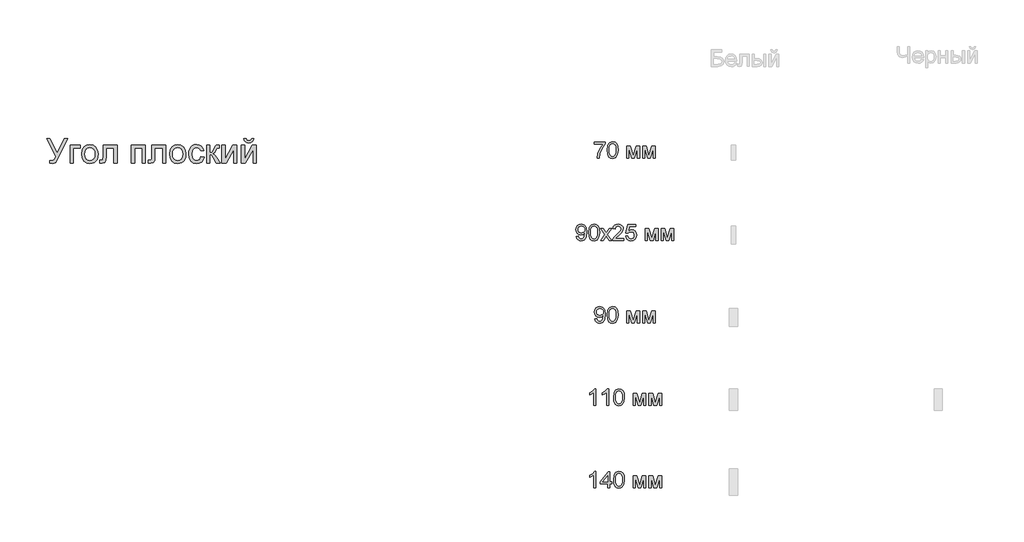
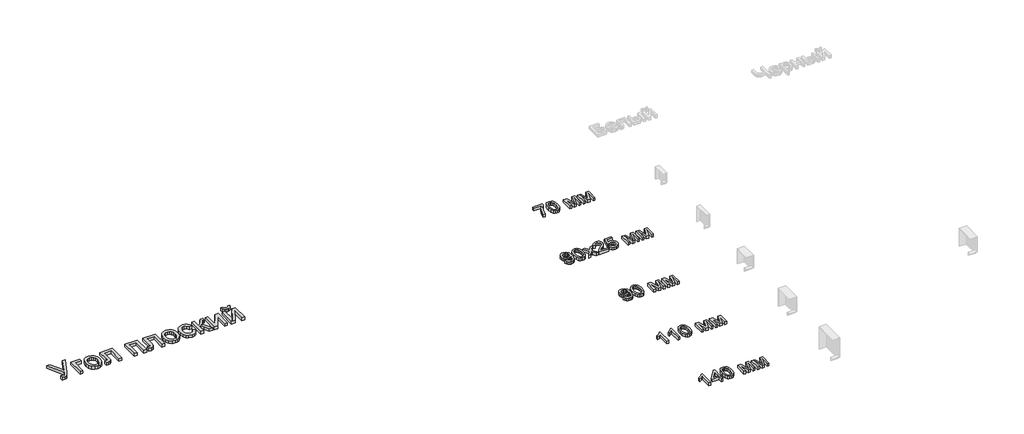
# One storey, part 12 of 48: 6 proxies.
"""IFC4 building model written with IfcOpenShell, lengths in millimetres."""

import ifcopenshell
import ifcopenshell.guid

model = None  # the IFC model being written
_history = None  # IfcOwnerHistory: only IFC2X3 demands one
_inside = {}  # id of a spatial element -> (the spatial element, [elements in it])
_under = {}  # id of a project, library or spatial element -> (it, [spatial elements below it])
_declared = {}  # id of a project -> (the project, [libraries it declares])
_typed = {}  # id of a type object -> (the type object, [elements of that type])
_made_of = {}  # id of a material, layer set ... -> (it, [elements and type objects made of it])


def new_model(schema):
    """Start an empty IFC model of exactly this schema.

    Asked for "IFC4X3", IfcOpenShell would pick the latest addendum, in which some entities
    have other attributes; the version numbers below select the first issue.
    IFC2X3 requires an IfcOwnerHistory on every rooted entity: one is made here for all.
    """
    global model, _history
    if schema == "IFC4X3":
        model = ifcopenshell.file(schema_version=(4, 3, 0, 0))
    else:
        model = ifcopenshell.file(schema=schema)
    _inside.clear()
    _under.clear()
    _declared.clear()
    _typed.clear()
    _made_of.clear()
    _history = None
    if model.schema == "IFC2X3":
        org = make("IfcOrganization", Name="unknown")
        user = make(
            "IfcPersonAndOrganization",
            ThePerson=make("IfcPerson", FamilyName="unknown"),
            TheOrganization=org,
        )
        app = make(
            "IfcApplication",
            ApplicationDeveloper=org,
            Version="unknown",
            ApplicationFullName="unknown",
            ApplicationIdentifier="unknown",
        )
        _history = make(
            "IfcOwnerHistory",
            OwningUser=user,
            OwningApplication=app,
            ChangeAction="ADDED",
            CreationDate=0,
        )
    return model


def make(cls, **values):
    """One entity of the class cls with the attributes given. An attribute that is None is left unset."""
    return model.create_entity(
        cls, **{name: value for name, value in values.items() if value is not None}
    )


def rooted(cls, **values):
    """An entity with a GlobalId (a new one), such as an element, a storey or a relation."""
    return make(cls, GlobalId=ifcopenshell.guid.new(), OwnerHistory=_history, **values)


def si_unit(unit_type, name, prefix=None):
    """IfcSIUnit, for example si_unit("LENGTHUNIT", "METRE", prefix="MILLI")."""
    return make("IfcSIUnit", UnitType=unit_type, Prefix=prefix, Name=name)


def assignment(units):
    """IfcUnitAssignment: the units of a project."""
    return None if units is None else make("IfcUnitAssignment", Units=units)


def point(xyz):
    """IfcCartesianPoint."""
    return None if xyz is None else make("IfcCartesianPoint", Coordinates=xyz)


def direction(xyz):
    """IfcDirection."""
    return None if xyz is None else make("IfcDirection", DirectionRatios=xyz)


def frame(location, z_axis=None, x_axis=None):
    """IfcAxis2Placement3D, a coordinate frame: its origin and axes. An axis left out is left unset."""
    return make(
        "IfcAxis2Placement3D",
        Location=point(location),
        Axis=direction(z_axis),
        RefDirection=direction(x_axis),
    )


def origin():
    """The frame at (0, 0, 0) with its axes left unset."""
    return frame((0.0, 0.0, 0.0))


def origin_with_axes():
    """The frame at (0, 0, 0) with the z axis (0, 0, 1) and the x axis (1, 0, 0) written out."""
    return frame((0.0, 0.0, 0.0), z_axis=(0.0, 0.0, 1.0), x_axis=(1.0, 0.0, 0.0))


def place(relative_to, where):
    """IfcLocalPlacement: puts the frame where relative to a parent placement (None: the world)."""
    return make(
        "IfcLocalPlacement", PlacementRelTo=relative_to, RelativePlacement=where
    )


def context(
    kind, dimensions, precision=None, world=None, true_north=None, identifier=None
):
    """IfcGeometricRepresentationContext, for example the 3D "Model" context."""
    return make(
        "IfcGeometricRepresentationContext",
        ContextIdentifier=identifier,
        ContextType=kind,
        CoordinateSpaceDimension=dimensions,
        Precision=precision,
        WorldCoordinateSystem=world,
        TrueNorth=true_north,
    )


def project(units=None, contexts=None):
    """IfcProject with its units and contexts."""
    return rooted(
        "IfcProject",
        Name="project",
        RepresentationContexts=contexts,
        UnitsInContext=assignment(units),
    )


def spatial(cls, under=None, at=None, **own):
    """A site, building, storey or space (cls), placed at a placement, below another one or the project."""
    s = rooted(cls, ObjectPlacement=at, **own)
    if under is not None:
        _under.setdefault(under.id(), (under, []))[1].append(s)
    return s


def polyline(points):
    """IfcPolyline through the points."""
    return make("IfcPolyline", Points=[point(p) for p in points])


def outline(outer, holes=None, kind="AREA"):
    """IfcArbitraryClosedProfileDef: a profile drawn as a closed curve; with holes, ...WithVoids."""
    if holes is None:
        return make("IfcArbitraryClosedProfileDef", ProfileType=kind, OuterCurve=outer)
    return make(
        "IfcArbitraryProfileDefWithVoids",
        ProfileType=kind,
        OuterCurve=outer,
        InnerCurves=holes,
    )


def extrude(swept, where, along, depth):
    """IfcExtrudedAreaSolid: the profile swept, set in the frame where, extruded along a direction by depth."""
    return make(
        "IfcExtrudedAreaSolid",
        SweptArea=swept,
        Position=where,
        ExtrudedDirection=direction(along),
        Depth=depth,
    )


def shape(context_of_items, identifier, shape_type, items):
    """IfcShapeRepresentation: the items that make up one representation, for example the "Body"."""
    return make(
        "IfcShapeRepresentation",
        ContextOfItems=context_of_items,
        RepresentationIdentifier=identifier,
        RepresentationType=shape_type,
        Items=items,
    )


def made_of(thing, what):
    """Note that an element or type object is made of a material, layer set ...; save() writes the relation."""
    if what is not None:
        _made_of.setdefault(what.id(), (what, []))[1].append(thing)
    return thing


def element(
    cls,
    number,
    at=None,
    inside=None,
    cuts=None,
    type_object=None,
    material=None,
    context=None,
    identifier="Body",
    shape_type=None,
    held_by="IfcProductDefinitionShape",
    body=None,
    shapes=None,
    **own,
):
    """One element of the class cls, such as IfcWall. Its Tag is "e" and its number.

    at: its placement. inside: the storey or other place that contains it. cuts: it is an
    opening in that element (IfcRelVoidsElement). A single representation is given by context,
    identifier, shape_type and body (its items); several are given by shapes. held_by: the class
    of the entity that holds the representations. save() writes the other relations.
    """
    e = rooted(cls, Tag="e%d" % number, ObjectPlacement=at, **own)
    if body is not None:
        shapes = [shape(context, identifier, shape_type, body)]
    if shapes is not None:
        e.Representation = make(held_by, Representations=shapes)
    if inside is not None:
        _inside.setdefault(inside.id(), (inside, []))[1].append(e)
    if cuts is not None:
        rooted(
            "IfcRelVoidsElement", RelatingBuildingElement=cuts, RelatedOpeningElement=e
        )
    if type_object is not None:
        _typed.setdefault(type_object.id(), (type_object, []))[1].append(e)
    return made_of(e, material)


def aggregate(whole, parts):
    """IfcRelAggregates: a whole, such as a stair, and the parts it consists of."""
    return rooted("IfcRelAggregates", RelatingObject=whole, RelatedObjects=parts)


def save(model, path):
    """Write the relations noted so far, then the file.

    IfcRelAggregates (storeys below a building ...), IfcRelContainedInSpatialStructure (elements
    in a storey), IfcRelDefinesByType, IfcRelAssociatesMaterial and IfcRelDeclares: one each for
    every whole, place, type object, material and project.
    """
    for whole, parts in _under.values():
        aggregate(whole, parts)
    for where, things in _inside.values():
        rooted(
            "IfcRelContainedInSpatialStructure",
            RelatedElements=things,
            RelatingStructure=where,
        )
    for kind, things in _typed.values():
        rooted("IfcRelDefinesByType", RelatedObjects=things, RelatingType=kind)
    for what, things in _made_of.values():
        rooted("IfcRelAssociatesMaterial", RelatedObjects=things, RelatingMaterial=what)
    for by, libraries in _declared.values():
        rooted("IfcRelDeclares", RelatingContext=by, RelatedDefinitions=libraries)
    model.write(path)


model = new_model("IFC4")

# Units and contexts
model_context = context("Model", 3, world=origin())
ifc_project = project(units=[si_unit("LENGTHUNIT", "METRE", prefix="MILLI")], contexts=[model_context])

# Site, building, storey
site = spatial("IfcSite", under=ifc_project)
building = spatial("IfcBuilding", under=site)
storey = spatial("IfcBuildingStorey", under=building, Name="Этаж 01", Elevation=0.0)

# Proxies
placement = place(None, origin())
element("IfcBuildingElementProxy", 1, Name="150 мм Arial", ObjectType="150 мм Arial", at=placement, inside=storey, context=model_context, shape_type="SweptSolid", body=[
    extrude(outline(polyline([(8881.8566897, -4202.898573), (8902.7155988, -4202.898573), (8947.7811432, -4292.146745), (8988.3217391, -4202.898573), (9008.9967072, -4202.898573), (8951.791057, -4320.2897176), (8936.2296486, -4349.131666), (8928.8444175, -4354.2360287), (8918.8288302, -4355.937483), (8901.8694702, -4353.5830382), (8901.8694702, -4337.1019248), (8916.6951146, -4337.1019248), (8927.6947863, -4332.9080701), (8937.8851175, -4313.8149945), (8881.8566897, -4202.898573)])), origin_with_axes(), (0.0, 0.0, 1.0), 20.0),
    extrude(outline(polyline([(9024.3005982, -4242.924134), (9085.5161622, -4242.924134), (9085.5161622, -4261.7596922), (9043.1361564, -4261.7596922), (9043.1361564, -4353.5830382), (9024.3005982, -4353.5830382), (9024.3005982, -4242.924134)])), origin_with_axes(), (0.0, 0.0, 1.0), 20.0),
    extrude(outline(polyline([(9094.9339413, -4298.2535861), (9099.0082344, -4271.5729444), (9111.2311137, -4252.8201597), (9126.3326696, -4243.6323069), (9144.4140696, -4240.5696893), (9164.2015224, -4244.299093), (9180.0066527, -4255.4873042), (9190.3671293, -4273.251406), (9193.8206216, -4296.7084817), (9192.2939113, -4315.7371779), (9187.7137805, -4330.2225315), (9180.2135863, -4341.0704518), (9169.926686, -4349.1868483), (9157.7084052, -4354.2498243), (9144.4140696, -4355.937483), (9124.3874935, -4352.2218748), (9108.6007574, -4341.0750503), (9098.3506453, -4322.938468), (9094.9339413, -4298.2535861)]), holes=[polyline([(9113.7694994, -4298.2167979), (9115.9492002, -4315.2635299), (9122.4883027, -4327.4082342), (9132.3291461, -4334.6785022), (9144.4140696, -4337.1019248), (9156.4438109, -4334.6647066), (9166.2662601, -4327.3530519), (9172.8053626, -4315.0473992), (9174.9850634, -4297.6281867), (9172.791567, -4281.0780955), (9166.2110778, -4269.098938), (9156.374833, -4261.8286701), (9144.4140696, -4259.4052474), (9132.3291461, -4261.819473), (9122.4883027, -4269.0621498), (9115.9492002, -4281.179263), (9113.7694994, -4298.2167979)])]), origin_with_axes(), (0.0, 0.0, 1.0), 20.0),
    extrude(outline(polyline([(9224.4284036, -4242.924134), (9309.1884153, -4242.924134), (9309.1884153, -4353.4726736), (9290.3528571, -4353.4726736), (9290.3528571, -4261.7596922), (9243.2639617, -4261.7596922), (9243.2639617, -4314.5507585), (9241.9947688, -4338.9045466), (9235.023405, -4349.1868483), (9218.5422917, -4353.5830382), (9203.2384007, -4352.626545), (9203.2384007, -4334.74748), (9211.6628983, -4334.74748), (9220.1793665, -4333.5886517), (9223.582275, -4329.9098318), (9224.4284036, -4313.4839007), (9224.4284036, -4242.924134)])), origin_with_axes(), (0.0, 0.0, 1.0), 20.0),
    extrude(outline(polyline([(9396.3028717, -4242.924134), (9481.0628834, -4242.924134), (9481.0628834, -4353.5830382), (9462.2273253, -4353.5830382), (9462.2273253, -4261.7596922), (9415.1384299, -4261.7596922), (9415.1384299, -4353.5830382), (9396.3028717, -4353.5830382), (9396.3028717, -4242.924134)])), origin_with_axes(), (0.0, 0.0, 1.0), 20.0),
    extrude(outline(polyline([(9518.7339997, -4242.924134), (9603.4940114, -4242.924134), (9603.4940114, -4353.4726736), (9584.6584533, -4353.4726736), (9584.6584533, -4261.7596922), (9537.5695579, -4261.7596922), (9537.5695579, -4314.5507585), (9536.300365, -4338.9045466), (9529.3290012, -4349.1868483), (9512.8478878, -4353.5830382), (9497.5439968, -4352.626545), (9497.5439968, -4334.74748), (9505.9684945, -4334.74748), (9514.4849627, -4333.5886517), (9517.8878711, -4329.9098318), (9518.7339997, -4313.4839007), (9518.7339997, -4242.924134)])), origin_with_axes(), (0.0, 0.0, 1.0), 20.0),
    extrude(outline(polyline([(9627.0384591, -4298.2535861), (9631.1127522, -4271.5729444), (9643.3356315, -4252.8201597), (9658.4371874, -4243.6323069), (9676.5185874, -4240.5696893), (9696.3060403, -4244.299093), (9712.1111705, -4255.4873042), (9722.4716472, -4273.251406), (9725.9251394, -4296.7084817), (9724.3984291, -4315.7371779), (9719.8182983, -4330.2225315), (9712.3181041, -4341.0704518), (9702.0312038, -4349.1868483), (9689.812923, -4354.2498243), (9676.5185874, -4355.937483), (9656.4920113, -4352.2218748), (9640.7052752, -4341.0750503), (9630.4551631, -4322.938468), (9627.0384591, -4298.2535861)]), holes=[polyline([(9645.8740173, -4298.2167979), (9648.0537181, -4315.2635299), (9654.5928205, -4327.4082342), (9664.4336639, -4334.6785022), (9676.5185874, -4337.1019248), (9688.5483287, -4334.6647066), (9698.370778, -4327.3530519), (9704.9098804, -4315.0473992), (9707.0895812, -4297.6281867), (9704.8960849, -4281.0780955), (9698.3155957, -4269.098938), (9688.4793508, -4261.8286701), (9676.5185874, -4259.4052474), (9664.4336639, -4261.819473), (9654.5928205, -4269.0621498), (9648.0537181, -4281.179263), (9645.8740173, -4298.2167979)])]), origin_with_axes(), (0.0, 0.0, 1.0), 20.0),
    extrude(outline(polyline([(9817.7484854, -4313.5574771), (9836.5840436, -4315.9119219), (9831.3325281, -4332.6643482), (9821.4640935, -4345.3240874), (9807.907642, -4353.2841341), (9791.5920755, -4355.937483), (9771.5563024, -4352.2356704), (9755.8891279, -4341.1302326), (9745.7769716, -4323.1086134), (9742.4062528, -4298.6582563), (9743.8455911, -4281.8966329), (9748.163606, -4267.3698926), (9755.4292754, -4255.6390555), (9765.7115772, -4247.2651416), (9778.0126314, -4242.2435523), (9791.3345581, -4240.5696893), (9807.250053, -4242.8689517), (9819.9741715, -4249.7667391), (9829.1022435, -4260.8951695), (9834.2295988, -4275.8863608), (9815.3940406, -4278.2408056), (9806.6568432, -4264.1325311), (9791.4817109, -4259.4052474), (9779.3094154, -4261.732101), (9769.6479145, -4268.7126619), (9763.3433368, -4280.724009), (9761.2418109, -4298.1432215), (9763.2973516, -4315.7969588), (9769.4639735, -4327.8496926), (9778.9507305, -4334.7888668), (9790.9666761, -4337.1019248), (9800.7201475, -4335.657988), (9808.7169824, -4331.3261775), (9814.5341165, -4323.9961287), (9817.7484854, -4313.5574771)])), origin_with_axes(), (0.0, 0.0, 1.0), 20.0),
    extrude(outline(polyline([(9853.0651569, -4242.924134), (9871.9007151, -4242.924134), (9871.9007151, -4290.0130294), (9884.5190675, -4286.6285151), (9894.8565516, -4266.9100401), (9903.4465962, -4249.8954978), (9911.0249653, -4244.3588738), (9924.802146, -4242.924134), (9928.4073895, -4242.924134), (9928.4073895, -4261.8700568), (9923.330618, -4261.7596922), (9914.1335681, -4263.746255), (9907.658845, -4276.1438782), (9900.0620818, -4289.5531769), (9889.4118981, -4296.1198705), (9901.2944865, -4303.4499193), (9912.9563457, -4318.891766), (9933.1162791, -4353.5830382), (9911.705547, -4353.5830382), (9891.9502838, -4319.62753), (9882.01747, -4305.2617381), (9871.9007151, -4301.7852533), (9871.9007151, -4353.5830382), (9853.0651569, -4353.5830382), (9853.0651569, -4242.924134)])), origin_with_axes(), (0.0, 0.0, 1.0), 20.0),
    extrude(outline(polyline([(9944.8885029, -4242.924134), (9963.7240611, -4242.924134), (9963.7240611, -4327.3162637), (10010.0036161, -4242.924134), (10034.3574042, -4242.924134), (10034.3574042, -4353.5830382), (10015.521846, -4353.5830382), (10015.521846, -4269.7059433), (9969.5365966, -4353.5830382), (9944.8885029, -4353.5830382), (9944.8885029, -4242.924134)])), origin_with_axes(), (0.0, 0.0, 1.0), 20.0),
    extrude(outline(polyline([(10062.6107414, -4242.924134), (10081.4462995, -4242.924134), (10081.4462995, -4327.3162637), (10127.7258545, -4242.924134), (10152.0796426, -4242.924134), (10152.0796426, -4353.5830382), (10133.2440845, -4353.5830382), (10133.2440845, -4269.7059433), (10087.2588351, -4353.5830382), (10062.6107414, -4353.5830382), (10062.6107414, -4242.924134)])), origin_with_axes(), (0.0, 0.0, 1.0), 20.0),
    extrude(outline(polyline([(10123.8263054, -4202.898573), (10137.952974, -4202.898573), (10134.913349, -4214.9605039), (10128.8111064, -4223.8494526), (10119.9221577, -4229.3262958), (10108.5224144, -4231.1519102), (10096.1523823, -4229.3400914), (10086.5598593, -4223.9046349), (10080.0023627, -4215.0294817), (10076.73741, -4202.898573), (10090.8640786, -4202.898573), (10096.1615793, -4213.5119685), (10106.8301572, -4217.0252416), (10118.5288047, -4213.6223331), (10123.8263054, -4202.898573)])), origin_with_axes(), (0.0, 0.0, 1.0), 20.0),
])
element("IfcBuildingElementProxy", 2, Name="100 мм Arial", ObjectType="100 мм Arial", at=placement, inside=storey, context=model_context, shape_type="SweptSolid", body=[
    extrude(outline(polyline([(12202.0597089, -4236.7077814), (12202.0597089, -4224.1507427), (12267.9841625, -4224.1507427), (12267.9841625, -4234.3042857), (12249.2834944, -4261.3190869), (12234.9728848, -4295.7405789), (12230.3130462, -4323.037423), (12217.7560074, -4323.037423), (12222.7469398, -4294.7105093), (12236.4444127, -4262.692513), (12255.4271237, -4236.7077814), (12202.0597089, -4236.7077814)])), origin_with_axes(), (0.0, 0.0, 1.0), 20.0),
    extrude(outline(polyline([(12278.9715714, -4273.6186083), (12282.6626541, -4244.7153462), (12293.6255375, -4228.0502918), (12311.9337982, -4222.5811128), (12326.600027, -4225.8184744), (12336.7290446, -4235.1504143), (12342.6151566, -4250.0128469), (12344.8960249, -4273.6186083), (12341.2417304, -4302.399243), (12330.3156352, -4319.1010856), (12322.0842755, -4323.230561), (12311.9337982, -4324.6070528), (12298.8862501, -4322.2158198), (12288.9779617, -4315.0421209), (12281.473169, -4298.0521041), (12278.9715714, -4273.6186083)]), holes=[polyline([(12291.5286102, -4273.5940828), (12293.0001381, -4293.3462803), (12297.4147221, -4304.7782133), (12303.9875471, -4310.2320638), (12311.9337982, -4312.050014), (12319.8800493, -4310.2259325), (12326.4528742, -4304.7536878), (12330.8674582, -4293.3156234), (12332.3389862, -4273.5940828), (12330.9165091, -4254.2864094), (12326.649078, -4242.7655716), (12320.0885157, -4237.0450066), (12311.7866454, -4235.1381516), (12303.9262334, -4236.818146), (12297.6109258, -4241.8581294), (12293.0491891, -4254.0963371), (12291.5286102, -4273.5940828)])]), origin_with_axes(), (0.0, 0.0, 1.0), 20.0),
    extrude(outline(polyline([(12398.2634397, -4249.2648202), (12419.8703755, -4249.2648202), (12436.5231672, -4308.3221432), (12454.4758086, -4249.2648202), (12475.1753022, -4249.2648202), (12475.1753022, -4323.037423), (12462.6182634, -4323.037423), (12462.6182634, -4263.6367435), (12444.5675202, -4323.037423), (12428.0864068, -4323.037423), (12410.8204785, -4260.7917894), (12410.8204785, -4323.037423), (12398.2634397, -4323.037423), (12398.2634397, -4249.2648202)])), origin_with_axes(), (0.0, 0.0, 1.0), 20.0),
    extrude(outline(polyline([(12494.0108603, -4249.2648202), (12515.6177962, -4249.2648202), (12532.2705878, -4308.3221432), (12550.2232292, -4249.2648202), (12570.9227228, -4249.2648202), (12570.9227228, -4323.037423), (12558.365684, -4323.037423), (12558.365684, -4263.6367435), (12540.3149408, -4323.037423), (12523.8338274, -4323.037423), (12506.5678991, -4260.7917894), (12506.5678991, -4323.037423), (12494.0108603, -4323.037423), (12494.0108603, -4249.2648202)])), origin_with_axes(), (0.0, 0.0, 1.0), 20.0),
])
element("IfcBuildingElementProxy", 3, Name="100 мм Arial", ObjectType="100 мм Arial", at=placement, inside=storey, context=model_context, shape_type="SweptSolid", body=[
    extrude(outline(polyline([(12091.4008048, -4797.9233454), (12103.9578436, -4796.3537156), (12109.5987008, -4808.3344059), (12120.2918041, -4812.050014), (12130.4576099, -4809.6587811), (12137.349266, -4803.2698971), (12141.4572816, -4792.3560646), (12143.2721661, -4777.7879376), (12143.1985897, -4775.3353909), (12133.1554112, -4784.8512719), (12119.3843619, -4788.5055663), (12107.9340348, -4786.2737489), (12098.4028254, -4779.5782966), (12091.9740876, -4769.2346812), (12089.8311749, -4756.0583744), (12092.0783208, -4742.4467406), (12098.8197584, -4731.7781627), (12108.9457103, -4724.8803753), (12121.3463992, -4722.5811128), (12139.2377269, -4727.8295626), (12151.549511, -4742.7900971), (12155.7556285, -4770.8962815), (12151.5617737, -4801.3936989), (12146.3470464, -4811.3847608), (12139.0905741, -4818.67189), (12130.1050564, -4823.1232621), (12119.7031929, -4824.6070528), (12108.9671701, -4822.8565476), (12100.4016509, -4817.6050322), (12094.4113058, -4809.1836002), (12091.4008048, -4797.9233454)]), holes=[polyline([(12143.1985897, -4755.7640688), (12141.8435577, -4747.253732), (12137.7784616, -4740.7054324), (12131.4692854, -4736.5299718), (12123.3820129, -4735.1381516), (12114.9943034, -4736.6372707), (12108.2743256, -4741.1346281), (12103.8597417, -4748.0170871), (12102.3882137, -4756.671511), (12103.7800339, -4764.4307554), (12107.9554946, -4770.5897132), (12114.5099254, -4774.608824), (12123.0386564, -4775.9485276), (12137.5209442, -4770.5897132), (12141.7791783, -4764.2038949), (12143.1985897, -4755.7640688)])]), origin_with_axes(), (0.0, 0.0, 1.0), 20.0),
    extrude(outline(polyline([(12166.7430374, -4773.6186083), (12170.4341201, -4744.7153462), (12181.3970035, -4728.0502918), (12199.7052642, -4722.5811128), (12214.371493, -4725.8184744), (12224.5005106, -4735.1504143), (12230.3866226, -4750.0128469), (12232.6674909, -4773.6186083), (12229.0131964, -4802.399243), (12218.0871012, -4819.1010856), (12209.8557415, -4823.230561), (12199.7052642, -4824.6070528), (12186.6577161, -4822.2158198), (12176.7494277, -4815.0421209), (12169.244635, -4798.0521041), (12166.7430374, -4773.6186083)]), holes=[polyline([(12179.3000762, -4773.5940828), (12180.7716041, -4793.3462803), (12185.1861881, -4804.7782133), (12191.7590131, -4810.2320638), (12199.7052642, -4812.050014), (12207.6515153, -4810.2259325), (12214.2243402, -4804.7536878), (12218.6389242, -4793.3156234), (12220.1104522, -4773.5940828), (12218.6879751, -4754.2864094), (12214.420544, -4742.7655716), (12207.8599817, -4737.0450066), (12199.5581114, -4735.1381516), (12191.6976994, -4736.818146), (12185.3823918, -4741.8581294), (12180.8206551, -4754.0963371), (12179.3000762, -4773.5940828)])]), origin_with_axes(), (0.0, 0.0, 1.0), 20.0),
    extrude(outline(polyline([(12238.9460103, -4823.037423), (12265.7768705, -4785.9549178), (12240.5156402, -4749.2648202), (12255.6233274, -4749.2648202), (12267.8124842, -4766.923156), (12273.5023924, -4775.2618145), (12278.4320111, -4768.4437349), (12292.3134251, -4749.2648202), (12307.4211124, -4749.2648202), (12280.8845578, -4785.9549178), (12306.4400937, -4823.037423), (12291.3324064, -4823.037423), (12275.954939, -4800.7437741), (12273.1345104, -4796.6725466), (12254.0536976, -4823.037423), (12238.9460103, -4823.037423)])), origin_with_axes(), (0.0, 0.0, 1.0), 20.0),
    extrude(outline(polyline([(12378.6430666, -4810.4803842), (12378.6430666, -4823.037423), (12312.7186131, -4823.037423), (12314.0675137, -4814.3799333), (12321.6949338, -4801.0503424), (12337.4157577, -4786.4944781), (12359.0962699, -4765.5742553), (12364.516398, -4751.3494848), (12359.4028383, -4739.8347784), (12346.0487218, -4735.1381516), (12332.1305197, -4739.7244138), (12326.8452817, -4752.4040799), (12314.2882429, -4750.83445), (12317.3324664, -4738.6882128), (12323.9144885, -4729.8161254), (12333.6909525, -4724.389866), (12346.318502, -4722.5811128), (12359.038022, -4724.5922011), (12368.7960919, -4730.6254658), (12375.0041005, -4739.6385747), (12377.0734368, -4750.5891954), (12374.8416193, -4762.4963093), (12367.4226658, -4774.8080934), (12349.4332362, -4792.012708), (12334.9877365, -4804.0915002), (12329.3223538, -4810.4803842), (12378.6430666, -4810.4803842)])), origin_with_axes(), (0.0, 0.0, 1.0), 20.0),
    extrude(outline(polyline([(12391.2001054, -4796.3537156), (12403.7571442, -4794.7840857), (12410.0847145, -4807.7212692), (12423.205839, -4812.050014), (12432.2066851, -4810.5447635), (12438.9511884, -4806.029012), (12443.1634372, -4799.0239257), (12444.5675202, -4790.0506707), (12439.3068076, -4775.1391872), (12432.7002601, -4771.0373029), (12423.4020427, -4769.6700082), (12412.3778456, -4771.8527747), (12405.326774, -4777.5181574), (12392.7697352, -4775.9485276), (12403.7571442, -4724.1507427), (12452.4156694, -4724.1507427), (12452.4156694, -4736.7077814), (12413.9106872, -4736.7077814), (12408.5396101, -4764.3725075), (12417.5097994, -4758.9278539), (12426.9091844, -4757.1129694), (12438.6415543, -4759.363181), (12448.3812302, -4766.1138156), (12454.9387267, -4776.4022487), (12457.1245589, -4789.2658558), (12455.1563902, -4801.8228946), (12449.2518842, -4812.5650488), (12437.9456442, -4821.5965518), (12423.156788, -4824.6070528), (12410.8235441, -4822.6726066), (12400.9980292, -4816.8692682), (12394.262723, -4807.8714877), (12391.2001054, -4796.3537156)])), origin_with_axes(), (0.0, 0.0, 1.0), 20.0),
    extrude(outline(polyline([(12510.4919737, -4749.2648202), (12532.0989095, -4749.2648202), (12548.7517012, -4808.3221432), (12566.7043426, -4749.2648202), (12587.4038361, -4749.2648202), (12587.4038361, -4823.037423), (12574.8467974, -4823.037423), (12574.8467974, -4763.6367435), (12556.7960541, -4823.037423), (12540.3149408, -4823.037423), (12523.0490125, -4760.7917894), (12523.0490125, -4823.037423), (12510.4919737, -4823.037423), (12510.4919737, -4749.2648202)])), origin_with_axes(), (0.0, 0.0, 1.0), 20.0),
    extrude(outline(polyline([(12606.2393943, -4749.2648202), (12627.8463301, -4749.2648202), (12644.4991218, -4808.3221432), (12662.4517632, -4749.2648202), (12683.1512568, -4749.2648202), (12683.1512568, -4823.037423), (12670.594218, -4823.037423), (12670.594218, -4763.6367435), (12652.5434748, -4823.037423), (12636.0623614, -4823.037423), (12618.7964331, -4760.7917894), (12618.7964331, -4823.037423), (12606.2393943, -4823.037423), (12606.2393943, -4749.2648202)])), origin_with_axes(), (0.0, 0.0, 1.0), 20.0),
])
element("IfcBuildingElementProxy", 4, Name="100 мм Arial", ObjectType="100 мм Arial", at=placement, inside=storey, context=model_context, shape_type="SweptSolid", body=[
    extrude(outline(polyline([(12203.6293388, -5297.9233454), (12216.1863775, -5296.3537156), (12221.8272348, -5308.3344059), (12232.5203381, -5312.050014), (12242.6861439, -5309.6587811), (12249.5778, -5303.2698971), (12253.6858156, -5292.3560646), (12255.5007001, -5277.7879376), (12255.4271237, -5275.3353909), (12245.3839452, -5284.8512719), (12231.6128959, -5288.5055663), (12220.1625688, -5286.2737489), (12210.6313594, -5279.5782966), (12204.2026216, -5269.2346812), (12202.0597089, -5256.0583744), (12204.3068548, -5242.4467406), (12211.0482923, -5231.7781627), (12221.1742443, -5224.8803753), (12233.5749332, -5222.5811128), (12251.4662609, -5227.8295626), (12263.778045, -5242.7900971), (12267.9841625, -5270.8962815), (12263.7903077, -5301.3936989), (12258.5755804, -5311.3847608), (12251.3191081, -5318.67189), (12242.3335904, -5323.1232621), (12231.9317269, -5324.6070528), (12221.195704, -5322.8565476), (12212.6301849, -5317.6050322), (12206.6398398, -5309.1836002), (12203.6293388, -5297.9233454)]), holes=[polyline([(12255.4271237, -5255.7640688), (12254.0720917, -5247.253732), (12250.0069956, -5240.7054324), (12243.6978194, -5236.5299718), (12235.6105469, -5235.1381516), (12227.2228374, -5236.6372707), (12220.5028596, -5241.1346281), (12216.0882757, -5248.0170871), (12214.6167477, -5256.671511), (12216.0085679, -5264.4307554), (12220.1840286, -5270.5897132), (12226.7384594, -5274.608824), (12235.2671904, -5275.9485276), (12249.7494782, -5270.5897132), (12254.0077123, -5264.2038949), (12255.4271237, -5255.7640688)])]), origin_with_axes(), (0.0, 0.0, 1.0), 20.0),
    extrude(outline(polyline([(12278.9715714, -5273.6186083), (12282.6626541, -5244.7153462), (12293.6255375, -5228.0502918), (12311.9337982, -5222.5811128), (12326.600027, -5225.8184744), (12336.7290446, -5235.1504143), (12342.6151566, -5250.0128469), (12344.8960249, -5273.6186083), (12341.2417304, -5302.399243), (12330.3156352, -5319.1010856), (12322.0842755, -5323.230561), (12311.9337982, -5324.6070528), (12298.8862501, -5322.2158198), (12288.9779617, -5315.0421209), (12281.473169, -5298.0521041), (12278.9715714, -5273.6186083)]), holes=[polyline([(12291.5286102, -5273.5940828), (12293.0001381, -5293.3462803), (12297.4147221, -5304.7782133), (12303.9875471, -5310.2320638), (12311.9337982, -5312.050014), (12319.8800493, -5310.2259325), (12326.4528742, -5304.7536878), (12330.8674582, -5293.3156234), (12332.3389862, -5273.5940828), (12330.9165091, -5254.2864094), (12326.649078, -5242.7655716), (12320.0885157, -5237.0450066), (12311.7866454, -5235.1381516), (12303.9262334, -5236.818146), (12297.6109258, -5241.8581294), (12293.0491891, -5254.0963371), (12291.5286102, -5273.5940828)])]), origin_with_axes(), (0.0, 0.0, 1.0), 20.0),
    extrude(outline(polyline([(12398.2634397, -5249.2648202), (12419.8703755, -5249.2648202), (12436.5231672, -5308.3221432), (12454.4758086, -5249.2648202), (12475.1753022, -5249.2648202), (12475.1753022, -5323.037423), (12462.6182634, -5323.037423), (12462.6182634, -5263.6367435), (12444.5675202, -5323.037423), (12428.0864068, -5323.037423), (12410.8204785, -5260.7917894), (12410.8204785, -5323.037423), (12398.2634397, -5323.037423), (12398.2634397, -5249.2648202)])), origin_with_axes(), (0.0, 0.0, 1.0), 20.0),
    extrude(outline(polyline([(12494.0108603, -5249.2648202), (12515.6177962, -5249.2648202), (12532.2705878, -5308.3221432), (12550.2232292, -5249.2648202), (12570.9227228, -5249.2648202), (12570.9227228, -5323.037423), (12558.365684, -5323.037423), (12558.365684, -5263.6367435), (12540.3149408, -5323.037423), (12523.8338274, -5323.037423), (12506.5678991, -5260.7917894), (12506.5678991, -5323.037423), (12494.0108603, -5323.037423), (12494.0108603, -5249.2648202)])), origin_with_axes(), (0.0, 0.0, 1.0), 20.0),
])
element("IfcBuildingElementProxy", 5, Name="100 мм Arial", ObjectType="100 мм Arial", at=placement, inside=storey, context=model_context, shape_type="SweptSolid", body=[
    extrude(outline(polyline([(12210.6926731, -5823.037423), (12198.1356343, -5823.037423), (12198.1356343, -5744.7521344), (12186.2407831, -5753.225683), (12173.0215568, -5759.5655161), (12173.0215568, -5747.6951903), (12191.4279193, -5735.947492), (12202.5992692, -5722.5811128), (12210.6926731, -5722.5811128), (12210.6926731, -5823.037423)])), origin_with_axes(), (0.0, 0.0, 1.0), 20.0),
    extrude(outline(polyline([(12287.6045355, -5823.037423), (12275.0474968, -5823.037423), (12275.0474968, -5744.7521344), (12263.1526456, -5753.225683), (12249.9334192, -5759.5655161), (12249.9334192, -5747.6951903), (12268.3397817, -5735.947492), (12279.5111316, -5722.5811128), (12287.6045355, -5722.5811128), (12287.6045355, -5823.037423)])), origin_with_axes(), (0.0, 0.0, 1.0), 20.0),
    extrude(outline(polyline([(12317.4275026, -5773.6186083), (12321.1185853, -5744.7153462), (12332.0814688, -5728.0502918), (12350.3897294, -5722.5811128), (12365.0559583, -5725.8184744), (12375.1849759, -5735.1504143), (12381.0710878, -5750.0128469), (12383.3519562, -5773.6186083), (12379.6976617, -5802.399243), (12368.7715664, -5819.1010856), (12360.5402068, -5823.230561), (12350.3897294, -5824.6070528), (12337.3421813, -5822.2158198), (12327.4338929, -5815.0421209), (12319.9291002, -5798.0521041), (12317.4275026, -5773.6186083)]), holes=[polyline([(12329.9845414, -5773.5940828), (12331.4560694, -5793.3462803), (12335.8706533, -5804.7782133), (12342.4434783, -5810.2320638), (12350.3897294, -5812.050014), (12358.3359805, -5810.2259325), (12364.9088055, -5804.7536878), (12369.3233894, -5793.3156234), (12370.7949174, -5773.5940828), (12369.3724403, -5754.2864094), (12365.1050092, -5742.7655716), (12358.5444469, -5737.0450066), (12350.2425766, -5735.1381516), (12342.3821646, -5736.818146), (12336.066857, -5741.8581294), (12331.5051203, -5754.0963371), (12329.9845414, -5773.5940828)])]), origin_with_axes(), (0.0, 0.0, 1.0), 20.0),
    extrude(outline(polyline([(12436.7193709, -5749.2648202), (12458.3263068, -5749.2648202), (12474.9790984, -5808.3221432), (12492.9317398, -5749.2648202), (12513.6312334, -5749.2648202), (12513.6312334, -5823.037423), (12501.0741946, -5823.037423), (12501.0741946, -5763.6367435), (12483.0234514, -5823.037423), (12466.542338, -5823.037423), (12449.2764097, -5760.7917894), (12449.2764097, -5823.037423), (12436.7193709, -5823.037423), (12436.7193709, -5749.2648202)])), origin_with_axes(), (0.0, 0.0, 1.0), 20.0),
    extrude(outline(polyline([(12532.4667915, -5749.2648202), (12554.0737274, -5749.2648202), (12570.726519, -5808.3221432), (12588.6791604, -5749.2648202), (12609.378654, -5749.2648202), (12609.378654, -5823.037423), (12596.8216152, -5823.037423), (12596.8216152, -5763.6367435), (12578.770872, -5823.037423), (12562.2897586, -5823.037423), (12545.0238303, -5760.7917894), (12545.0238303, -5823.037423), (12532.4667915, -5823.037423), (12532.4667915, -5749.2648202)])), origin_with_axes(), (0.0, 0.0, 1.0), 20.0),
])
element("IfcBuildingElementProxy", 6, Name="100 мм Arial", ObjectType="100 мм Arial", at=placement, inside=storey, context=model_context, shape_type="SweptSolid", body=[
    extrude(outline(polyline([(12210.6926731, -6323.037423), (12198.1356343, -6323.037423), (12198.1356343, -6244.7521344), (12186.2407831, -6253.225683), (12173.0215568, -6259.5655161), (12173.0215568, -6247.6951903), (12191.4279193, -6235.947492), (12202.5992692, -6222.5811128), (12210.6926731, -6222.5811128), (12210.6926731, -6323.037423)])), origin_with_axes(), (0.0, 0.0, 1.0), 20.0),
    extrude(outline(polyline([(12281.3260162, -6323.037423), (12281.3260162, -6299.4929753), (12235.8067506, -6299.4929753), (12235.8067506, -6286.9359365), (12284.4652759, -6224.1507427), (12293.8830549, -6224.1507427), (12293.8830549, -6286.9359365), (12306.4400937, -6286.9359365), (12306.4400937, -6299.4929753), (12293.8830549, -6299.4929753), (12293.8830549, -6323.037423), (12281.3260162, -6323.037423)]), holes=[polyline([(12281.3260162, -6286.9359365), (12281.3260162, -6248.1366487), (12251.2577944, -6286.9359365), (12281.3260162, -6286.9359365)])]), origin_with_axes(), (0.0, 0.0, 1.0), 20.0),
    extrude(outline(polyline([(12317.4275026, -6273.6186083), (12321.1185853, -6244.7153462), (12332.0814688, -6228.0502918), (12350.3897294, -6222.5811128), (12365.0559583, -6225.8184744), (12375.1849759, -6235.1504143), (12381.0710878, -6250.0128469), (12383.3519562, -6273.6186083), (12379.6976617, -6302.399243), (12368.7715664, -6319.1010856), (12360.5402068, -6323.230561), (12350.3897294, -6324.6070528), (12337.3421813, -6322.2158198), (12327.4338929, -6315.0421209), (12319.9291002, -6298.0521041), (12317.4275026, -6273.6186083)]), holes=[polyline([(12329.9845414, -6273.5940828), (12331.4560694, -6293.3462803), (12335.8706533, -6304.7782133), (12342.4434783, -6310.2320638), (12350.3897294, -6312.050014), (12358.3359805, -6310.2259325), (12364.9088055, -6304.7536878), (12369.3233894, -6293.3156234), (12370.7949174, -6273.5940828), (12369.3724403, -6254.2864094), (12365.1050092, -6242.7655716), (12358.5444469, -6237.0450066), (12350.2425766, -6235.1381516), (12342.3821646, -6236.818146), (12336.066857, -6241.8581294), (12331.5051203, -6254.0963371), (12329.9845414, -6273.5940828)])]), origin_with_axes(), (0.0, 0.0, 1.0), 20.0),
    extrude(outline(polyline([(12436.7193709, -6249.2648202), (12458.3263068, -6249.2648202), (12474.9790984, -6308.3221432), (12492.9317398, -6249.2648202), (12513.6312334, -6249.2648202), (12513.6312334, -6323.037423), (12501.0741946, -6323.037423), (12501.0741946, -6263.6367435), (12483.0234514, -6323.037423), (12466.542338, -6323.037423), (12449.2764097, -6260.7917894), (12449.2764097, -6323.037423), (12436.7193709, -6323.037423), (12436.7193709, -6249.2648202)])), origin_with_axes(), (0.0, 0.0, 1.0), 20.0),
    extrude(outline(polyline([(12532.4667915, -6249.2648202), (12554.0737274, -6249.2648202), (12570.726519, -6308.3221432), (12588.6791604, -6249.2648202), (12609.378654, -6249.2648202), (12609.378654, -6323.037423), (12596.8216152, -6323.037423), (12596.8216152, -6263.6367435), (12578.770872, -6323.037423), (12562.2897586, -6323.037423), (12545.0238303, -6260.7917894), (12545.0238303, -6323.037423), (12532.4667915, -6323.037423), (12532.4667915, -6249.2648202)])), origin_with_axes(), (0.0, 0.0, 1.0), 20.0),
])

save(model, "model.ifc")
